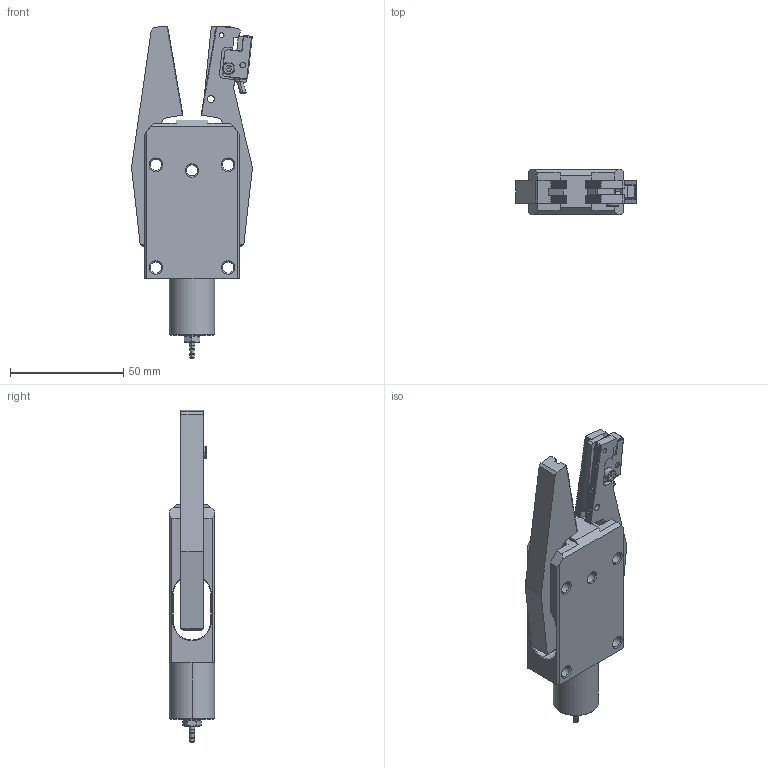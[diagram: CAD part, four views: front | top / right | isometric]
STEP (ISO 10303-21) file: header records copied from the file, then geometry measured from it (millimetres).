
FILE_DESCRIPTION (( 'STEP AP214' ), '1' );
FILE_NAME ('GRX20-CN.STEP', '2019-11-12T03:44:38', ( '微软用户' ), ( '微软中国' ), 'SwSTEP 2.0', 'SolidWorks 2016', '' );
FILE_SCHEMA (( 'AUTOMOTIVE_DESIGN' ));
Length unit declared in the file: millimetre
Products named in the file (1): GRX20-CN
Bounding box: 53.49 x 20 x 146.87 mm (x, y, z)
Volume: 59516.9 mm3; surface area: 28751.7 mm2
Topology: 8 solids, 8 shells, 7154 faces, 15187 edges, 8048 vertices
Faces by surface type: plane 5674, bspline 1237, cylinder 126, cone 107, torus 10
Entity records: 274675 total; most frequent: CARTESIAN_POINT 50485, ORIENTED_EDGE 30362, DIRECTION 27090, EDGE_CURVE 15181, LINE 14560, VECTOR 14560, VERTEX_POINT 8048, EDGE_LOOP 7203
